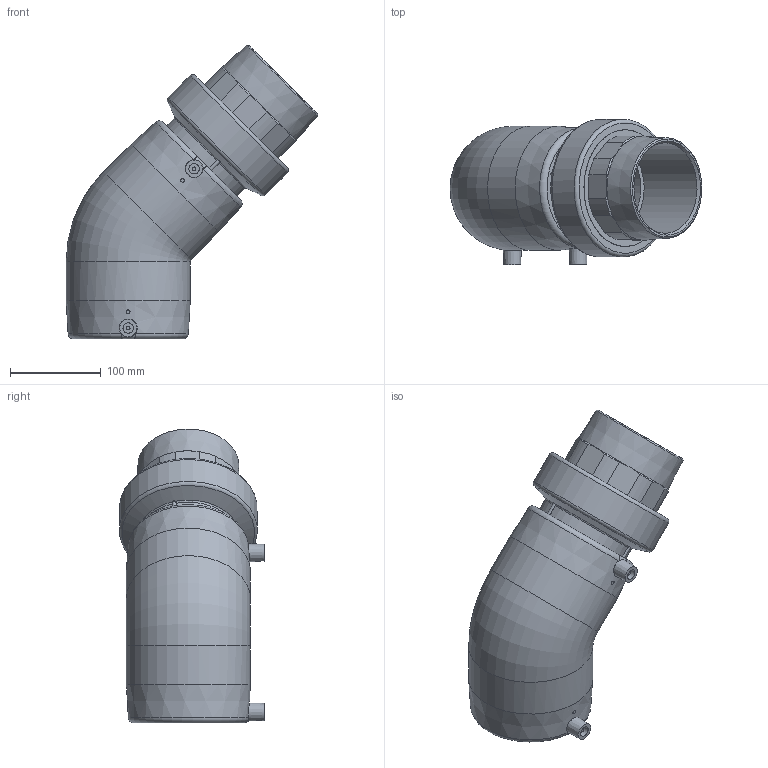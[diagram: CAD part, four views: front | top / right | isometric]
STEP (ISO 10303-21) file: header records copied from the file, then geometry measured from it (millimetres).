
FILE_DESCRIPTION(/* description */ ('Unknown'),/* implementation_level */ '2;1');
FILE_NAME(/* name */ 'GE4TMP110C',/* time_stamp */ '2021-03-02T16:08:39+01:00',/* author */ ('Unknown'),/* organization */ ('Unknown'),/* preprocessor_version */ 'ST-DEVELOPER v16.7',/* originating_system */ 'Solid Edge',/* authorisation */ 'Unknown');
FILE_SCHEMA (('AUTOMOTIVE_DESIGN {1 0 10303 214 3 1 1}'));
Length unit declared in the file: millimetre
Products named in the file (5): GE4TMP110C; GE4P110C; RTOMP110C; Parte PE 110; IOM110C
Assembly tree (4 placements, depth 3):
  GE4TMP110C
    GE4P110C
    RTOMP110C
      Parte PE 110
      IOM110C
Bounding box: 277.87 x 159.84 x 324.37 mm (x, y, z)
Volume: 2199485.6 mm3; surface area: 412752.2 mm2
Topology: 3 solids, 3 shells, 225 faces, 546 edges, 346 vertices
Faces by surface type: plane 110, cylinder 58, cone 25, bspline 17, torus 15
Full cylindrical faces by diameter (mm): 4 x4, 11.6 x2, 90 x1, 100 x6, 106 x2, 110 x3, 119 x2, 123.4 x2, 129 x8, 137 x2, 152 x1
Entity records: 7248 total; most frequent: CARTESIAN_POINT 1527, DIRECTION 1066, ORIENTED_EDGE 944, EDGE_CURVE 472, AXIS2_PLACEMENT_3D 439, VERTEX_POINT 325, EDGE_LOOP 303, FACE_BOUND 303
